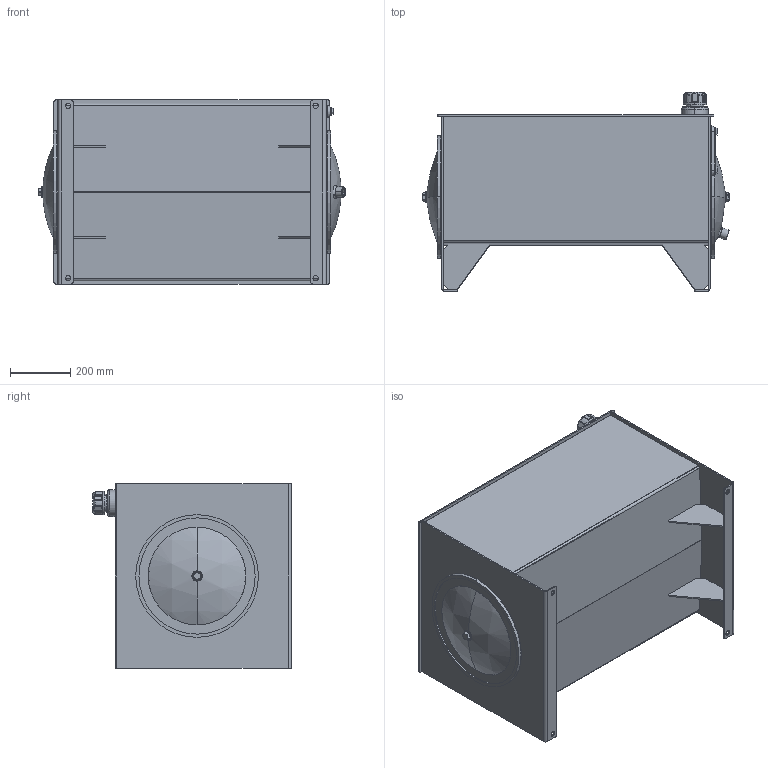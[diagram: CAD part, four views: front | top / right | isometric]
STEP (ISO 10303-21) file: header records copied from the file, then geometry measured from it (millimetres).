
FILE_DESCRIPTION (( 'STEP AP203' ), '1' );
FILE_NAME ('RJIC050-FT.STEP', '2015-01-07T16:43:29', ( '' ), ( '' ), 'SwSTEP 2.0', 'SolidWorks 2014', '' );
FILE_SCHEMA (( 'CONFIG_CONTROL_DESIGN' ));
Length unit declared in the file: inch
Products named in the file (1): RJIC050-FT
Bounding box: 1014.53 x 658.86 x 609.6 mm (x, y, z)
Volume: 12263952.3 mm3; surface area: 6570991.9 mm2
Topology: 22 solids, 22 shells, 698 faces, 1633 edges, 980 vertices
Faces by surface type: plane 241, cylinder 230, cone 84, torus 63, bspline 48, sphere 32
Entity records: 22888 total; most frequent: CARTESIAN_POINT 6761, DIRECTION 3520, ORIENTED_EDGE 3242, EDGE_CURVE 1621, AXIS2_PLACEMENT_3D 1396, VERTEX_POINT 980, EDGE_LOOP 777, CIRCLE 745
